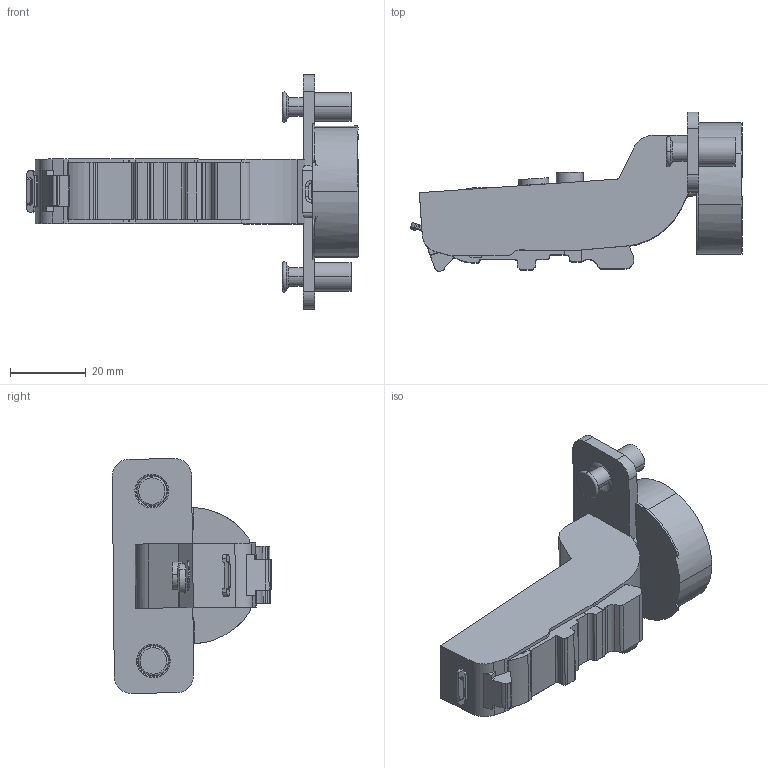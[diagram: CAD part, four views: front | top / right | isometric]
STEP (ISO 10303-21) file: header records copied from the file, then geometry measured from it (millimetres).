
FILE_DESCRIPTION (( 'STEP AP203' ), '1' );
FILE_NAME ('C81C875KFAB DTC 3D CLOSE.STEP', '2024-07-24T09:07:27', ( '微软用户' ), ( '微软中国' ), 'SwSTEP 2.0', 'SolidWorks 2021', '' );
FILE_SCHEMA (( 'CONFIG_CONTROL_DESIGN' ));
Length unit declared in the file: millimetre
Products named in the file (1): C81C875KFAB DTC 3D CLOSE
Bounding box: 87.94 x 42.19 x 62.11 mm (x, y, z)
Volume: 41519.4 mm3; surface area: 12190.9 mm2
Topology: 1 solids, 2 shells, 264 faces, 727 edges, 477 vertices
Faces by surface type: cylinder 114, plane 107, torus 24, bspline 11, cone 8
Entity records: 8812 total; most frequent: CARTESIAN_POINT 1952, ORIENTED_EDGE 1454, DIRECTION 1434, EDGE_CURVE 727, AXIS2_PLACEMENT_3D 527, VERTEX_POINT 477, LINE 380, VECTOR 380
